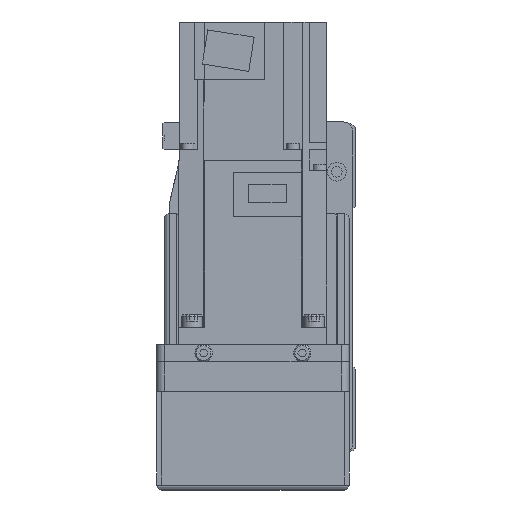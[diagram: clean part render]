
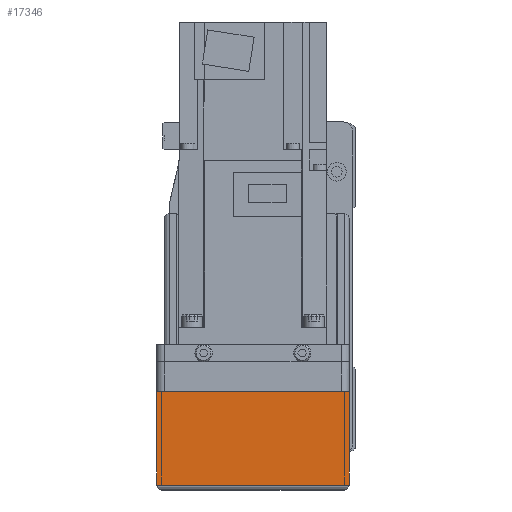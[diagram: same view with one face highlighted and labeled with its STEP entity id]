
A CAD part, left-side view. The second image highlights one B-rep face of the part: STEP entity #17346.
In plain terms, the highlighted planar face has unit normal (-1, 0, 0).
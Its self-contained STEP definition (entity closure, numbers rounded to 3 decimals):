
#2618=ORIENTED_EDGE('',*,*,#6981,.F.);
#2619=ORIENTED_EDGE('',*,*,#6982,.F.);
#2620=ORIENTED_EDGE('',*,*,#6983,.T.);
#2621=ORIENTED_EDGE('',*,*,#6984,.F.);
#6981=EDGE_CURVE('',#9261,#9252,#11050,.T.);
#6982=EDGE_CURVE('',#9278,#9261,#11051,.T.);
#6983=EDGE_CURVE('',#9278,#9279,#11052,.T.);
#6984=EDGE_CURVE('',#9252,#9279,#11053,.T.);
#9252=VERTEX_POINT('',#26660);
#9261=VERTEX_POINT('',#26678);
#9278=VERTEX_POINT('',#26726);
#9279=VERTEX_POINT('',#26728);
#11050=LINE('',#26724,#12643);
#11051=LINE('',#26725,#12644);
#11052=LINE('',#26727,#12645);
#11053=LINE('',#26729,#12646);
#12643=VECTOR('',#21400,1000.);
#12644=VECTOR('',#21401,1000.);
#12645=VECTOR('',#21402,1000.);
#12646=VECTOR('',#21403,1000.);
#14068=EDGE_LOOP('',(#2618,#2619,#2620,#2621));
#15423=FACE_BOUND('',#14068,.T.);
#16619=PLANE('',#18596);
#17346=ADVANCED_FACE('',(#15423),#16619,.F.);
#18596=AXIS2_PLACEMENT_3D('',#26723,#21398,#21399);
#21398=DIRECTION('',(1.,0.,0.));
#21399=DIRECTION('',(0.,0.,-1.));
#21400=DIRECTION('',(0.,-1.,0.));
#21401=DIRECTION('',(0.,0.,1.));
#21402=DIRECTION('',(0.,-1.,0.));
#21403=DIRECTION('',(0.,0.,-1.));
#26660=CARTESIAN_POINT('',(-158.,-39.,-12.1));
#26678=CARTESIAN_POINT('',(-158.,39.,-12.1));
#26723=CARTESIAN_POINT('',(-158.,36.,7.));
#26724=CARTESIAN_POINT('',(-158.,50.,-12.1));
#26725=CARTESIAN_POINT('',(-158.,39.,-50.));
#26726=CARTESIAN_POINT('',(-158.,39.,-50.));
#26727=CARTESIAN_POINT('',(-158.,40.,-50.));
#26728=CARTESIAN_POINT('',(-158.,-39.,-50.));
#26729=CARTESIAN_POINT('',(-158.,-39.,-12.1));
